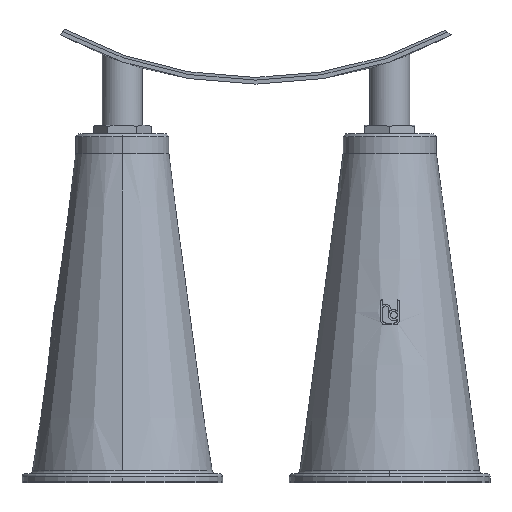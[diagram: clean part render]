
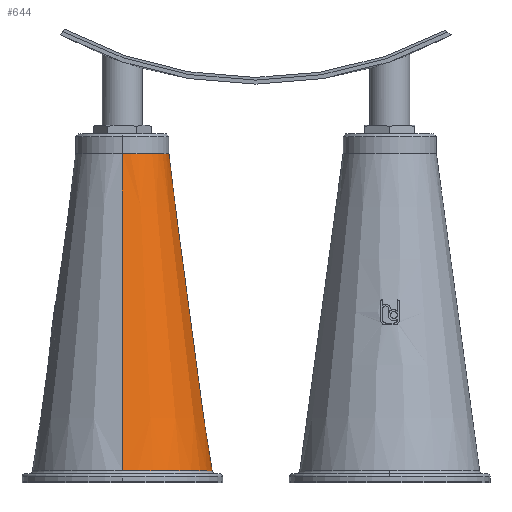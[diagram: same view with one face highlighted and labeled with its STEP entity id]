
A CAD part, front view. The second image highlights one B-rep face of the part: STEP entity #644.
In plain terms, the highlighted conical face has half-angle 7.768 degrees and reference radius 102.093 mm.
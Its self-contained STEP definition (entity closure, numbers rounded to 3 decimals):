
#644=ADVANCED_FACE('',(#1274),#1275,.T.);
#1274=FACE_OUTER_BOUND('',#1944,.T.);
#1275=CONICAL_SURFACE('',#1945,102.093,0.136);
#1944=EDGE_LOOP('',(#3513,#3514,#3515,#3516,#3517));
#1945=AXIS2_PLACEMENT_3D('',#3518,#3519,#3520);
#3513=ORIENTED_EDGE('',*,*,#4367,.T.);
#3514=ORIENTED_EDGE('',*,*,#4448,.F.);
#3515=ORIENTED_EDGE('',*,*,#4308,.F.);
#3516=ORIENTED_EDGE('',*,*,#4369,.T.);
#3517=ORIENTED_EDGE('',*,*,#4449,.T.);
#3518=CARTESIAN_POINT('',(112.781,360.171,-84.197));
#3519=DIRECTION('',(0.,0.,-1.0));
#3520=DIRECTION('',(0.,-1.0,0.));
#4308=EDGE_CURVE('',#5214,#5216,#5217,.T.);
#4367=EDGE_CURVE('',#5321,#5322,#5323,.T.);
#4369=EDGE_CURVE('',#5214,#5324,#5326,.T.);
#4448=EDGE_CURVE('',#5216,#5322,#5450,.T.);
#4449=EDGE_CURVE('',#5324,#5321,#5451,.T.);
#5214=VERTEX_POINT('',#7785);
#5216=VERTEX_POINT('',#7787);
#5217=CIRCLE('',#7788,134.41);
#5321=VERTEX_POINT('',#8246);
#5322=VERTEX_POINT('',#8247);
#5323=LINE('',#8248,#8249);
#5324=VERTEX_POINT('',#8250);
#5326=LINE('',#8252,#8253);
#5450=CIRCLE('',#8737,134.41);
#5451=CIRCLE('',#8738,69.775);
#7785=CARTESIAN_POINT('',(112.781,494.581,-321.09));
#7787=CARTESIAN_POINT('',(247.191,360.171,-321.09));
#7788=AXIS2_PLACEMENT_3D('',#9359,#9360,#9361);
#8246=CARTESIAN_POINT('',(112.781,290.396,152.696));
#8247=CARTESIAN_POINT('',(112.781,225.761,-321.09));
#8248=CARTESIAN_POINT('',(112.781,258.079,-84.197));
#8249=VECTOR('',#9431,1.0);
#8250=CARTESIAN_POINT('',(112.781,429.947,152.696));
#8252=CARTESIAN_POINT('',(112.781,462.264,-84.197));
#8253=VECTOR('',#9435,1.0);
#8737=AXIS2_PLACEMENT_3D('',#9516,#9517,#9518);
#8738=AXIS2_PLACEMENT_3D('',#9519,#9520,#9521);
#9359=CARTESIAN_POINT('',(112.781,360.171,-321.09));
#9360=DIRECTION('',(0.,0.,-1.0));
#9361=DIRECTION('',(0.,-1.0,0.));
#9431=DIRECTION('',(0.,-0.135,-0.991));
#9435=DIRECTION('',(0.,-0.135,0.991));
#9516=CARTESIAN_POINT('',(112.781,360.171,-321.09));
#9517=DIRECTION('',(0.,0.,-1.0));
#9518=DIRECTION('',(0.,-1.0,0.));
#9519=CARTESIAN_POINT('',(112.781,360.171,152.696));
#9520=DIRECTION('',(0.,0.,-1.0));
#9521=DIRECTION('',(0.,-1.0,0.));
